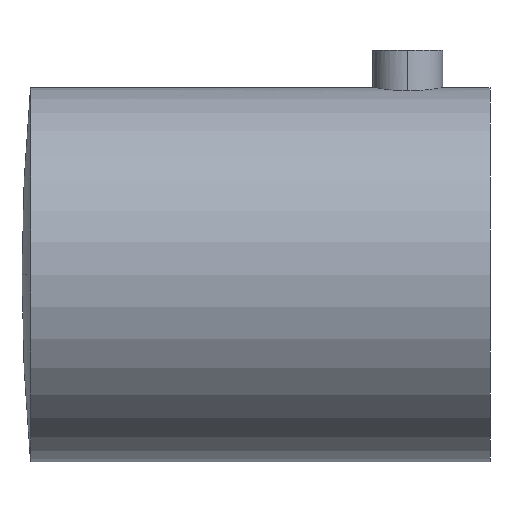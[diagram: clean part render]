
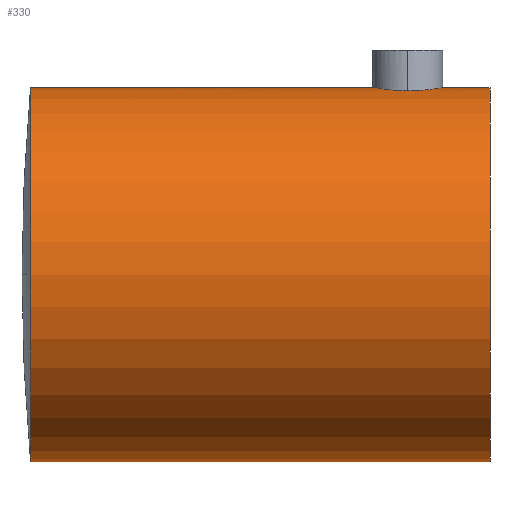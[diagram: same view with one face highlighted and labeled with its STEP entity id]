
A CAD part, left-side view. The second image highlights one B-rep face of the part: STEP entity #330.
In plain terms, the highlighted cylindrical face has radius 12.7 mm (diameter 25.4 mm), a partial arc.
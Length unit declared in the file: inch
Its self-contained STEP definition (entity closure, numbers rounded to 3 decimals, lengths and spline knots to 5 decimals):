
#5 = B_SPLINE_CURVE_WITH_KNOTS ( 'NONE', 3,
 ( #571, #588, #603, #568, #605, #607, #606, #608, #593, #566, #587, #573, #580, #584, #583, #574, #600, #592 ),
 .UNSPECIFIED., .F., .F.,
 ( 4, 2, 2, 2, 2, 2, 2, 2, 4 ),
 ( 0.00372, 0.00419, 0.00465, 0.00512, 0.00558, 0.00605, 0.00651, 0.00698, 0.00744 ),
 .UNSPECIFIED. ) ;
#7 = B_SPLINE_CURVE_WITH_KNOTS ( 'NONE', 3,
 ( #255, #256, #257, #266, #265, #267, #263, #258, #264, #260, #262, #259, #261, #233, #240, #238 ),
 .UNSPECIFIED., .F., .F.,
 ( 4, 2, 2, 2, 2, 2, 2, 4 ),
 ( 0.00744, 0.00837, 0.00884, 0.0093, 0.00977, 0.01023, 0.0107, 0.01116 ),
 .UNSPECIFIED. ) ;
#55 = CARTESIAN_POINT ( 'NONE',  ( 0., 0., 0.5 ) ) ;
#66 = DIRECTION ( 'NONE',  ( 0., -1., 0. ) ) ;
#77 = CARTESIAN_POINT ( 'NONE',  ( 0., 1.22723, 0. ) ) ;
#78 = DIRECTION ( 'NONE',  ( 0., -1., 0. ) ) ;
#89 = CARTESIAN_POINT ( 'NONE',  ( 0., 0., 0. ) ) ;
#90 = DIRECTION ( 'NONE',  ( 0., -1., 0. ) ) ;
#93 = DIRECTION ( 'NONE',  ( 0., 0., -1. ) ) ;
#102 = DIRECTION ( 'NONE',  ( 0., 0., -1. ) ) ;
#104 = ORIENTED_EDGE ( 'NONE', *, *, #406, .T. ) ;
#107 = ORIENTED_EDGE ( 'NONE', *, *, #415, .T. ) ;
#111 = ORIENTED_EDGE ( 'NONE', *, *, #418, .F. ) ;
#125 = EDGE_LOOP ( 'NONE', ( #111, #428, #107, #104, #429, #440, #432, #430 ) ) ;
#136 = CARTESIAN_POINT ( 'NONE',  ( -0.0935, 0.22, 0.49118 ) ) ;
#139 = CARTESIAN_POINT ( 'NONE',  ( -0.5, 1.22723, 0. ) ) ;
#140 = CARTESIAN_POINT ( 'NONE',  ( 0., 1.22723, 0.5 ) ) ;
#142 = CARTESIAN_POINT ( 'NONE',  ( 0., 1.22723, -0.5 ) ) ;
#166 = CARTESIAN_POINT ( 'NONE',  ( 0., 0., 0.5 ) ) ;
#186 = CARTESIAN_POINT ( 'NONE',  ( 0., 0., -0.5 ) ) ;
#200 = VERTEX_POINT ( 'NONE', #223 ) ;
#202 = VERTEX_POINT ( 'NONE', #225 ) ;
#204 = VERTEX_POINT ( 'NONE', #139 ) ;
#205 = VERTEX_POINT ( 'NONE', #142 ) ;
#208 = VERTEX_POINT ( 'NONE', #136 ) ;
#210 = VERTEX_POINT ( 'NONE', #140 ) ;
#214 = VERTEX_POINT ( 'NONE', #186 ) ;
#215 = VERTEX_POINT ( 'NONE', #166 ) ;
#223 = CARTESIAN_POINT ( 'NONE',  ( 0., 0.3135, 0.5 ) ) ;
#225 = CARTESIAN_POINT ( 'NONE',  ( 0., 0.1265, 0.5 ) ) ;
#233 = CARTESIAN_POINT ( 'NONE',  ( -0.0123, 0.31289, 0.49988 ) ) ;
#238 = CARTESIAN_POINT ( 'NONE',  ( 0., 0.3135, 0.5 ) ) ;
#240 = CARTESIAN_POINT ( 'NONE',  ( -0.00618, 0.3135, 0.5 ) ) ;
#250 = CARTESIAN_POINT ( 'NONE',  ( 0., 0., 0. ) ) ;
#251 = DIRECTION ( 'NONE',  ( 0., -1., 0. ) ) ;
#254 = DIRECTION ( 'NONE',  ( 0., 0., -1. ) ) ;
#255 = CARTESIAN_POINT ( 'NONE',  ( -0.0935, 0.22, 0.49118 ) ) ;
#256 = CARTESIAN_POINT ( 'NONE',  ( -0.0935, 0.23222, 0.49118 ) ) ;
#257 = CARTESIAN_POINT ( 'NONE',  ( -0.09104, 0.24455, 0.49166 ) ) ;
#258 = CARTESIAN_POINT ( 'NONE',  ( -0.06183, 0.2904, 0.49618 ) ) ;
#259 = CARTESIAN_POINT ( 'NONE',  ( -0.03019, 0.30871, 0.49912 ) ) ;
#260 = CARTESIAN_POINT ( 'NONE',  ( -0.04689, 0.30112, 0.49782 ) ) ;
#261 = CARTESIAN_POINT ( 'NONE',  ( -0.02426, 0.3105, 0.49945 ) ) ;
#262 = CARTESIAN_POINT ( 'NONE',  ( -0.04153, 0.304, 0.4983 ) ) ;
#263 = CARTESIAN_POINT ( 'NONE',  ( -0.07045, 0.28178, 0.49503 ) ) ;
#264 = CARTESIAN_POINT ( 'NONE',  ( -0.05703, 0.29435, 0.49676 ) ) ;
#265 = CARTESIAN_POINT ( 'NONE',  ( -0.08112, 0.2669, 0.49339 ) ) ;
#266 = CARTESIAN_POINT ( 'NONE',  ( -0.08404, 0.26144, 0.49289 ) ) ;
#267 = CARTESIAN_POINT ( 'NONE',  ( -0.07431, 0.27708, 0.49446 ) ) ;
#330 = ADVANCED_FACE ( 'NONE', ( #532 ), #538, .T. ) ;
#345 = EDGE_CURVE ( 'NONE', #215, #214, #505, .T. ) ;
#346 = EDGE_CURVE ( 'NONE', #208, #200, #7, .T. ) ;
#354 = EDGE_CURVE ( 'NONE', #202, #215, #533, .T. ) ;
#360 = EDGE_CURVE ( 'NONE', #210, #204, #526, .T. ) ;
#369 = AXIS2_PLACEMENT_3D ( 'NONE', #77, #78, #102 ) ;
#376 = AXIS2_PLACEMENT_3D ( 'NONE', #572, #575, #589 ) ;
#387 = AXIS2_PLACEMENT_3D ( 'NONE', #250, #251, #254 ) ;
#397 = AXIS2_PLACEMENT_3D ( 'NONE', #89, #90, #93 ) ;
#406 = EDGE_CURVE ( 'NONE', #205, #214, #564, .T. ) ;
#414 = EDGE_CURVE ( 'NONE', #202, #208, #5, .T. ) ;
#415 = EDGE_CURVE ( 'NONE', #204, #205, #547, .T. ) ;
#418 = EDGE_CURVE ( 'NONE', #210, #200, #560, .T. ) ;
#428 = ORIENTED_EDGE ( 'NONE', *, *, #360, .T. ) ;
#429 = ORIENTED_EDGE ( 'NONE', *, *, #345, .F. ) ;
#430 = ORIENTED_EDGE ( 'NONE', *, *, #346, .T. ) ;
#432 = ORIENTED_EDGE ( 'NONE', *, *, #414, .T. ) ;
#440 = ORIENTED_EDGE ( 'NONE', *, *, #354, .F. ) ;
#505 = CIRCLE ( 'NONE', #387, 0.5 ) ;
#526 = CIRCLE ( 'NONE', #369, 0.5 ) ;
#532 = FACE_OUTER_BOUND ( 'NONE', #125, .T. ) ;
#533 = LINE ( 'NONE', #55, #537 ) ;
#537 = VECTOR ( 'NONE', #66, 39.37008 ) ;
#538 = CYLINDRICAL_SURFACE ( 'NONE', #397, 0.5 ) ;
#547 = CIRCLE ( 'NONE', #376, 0.5 ) ;
#548 = VECTOR ( 'NONE', #601, 39.37008 ) ;
#557 = VECTOR ( 'NONE', #569, 39.37008 ) ;
#560 = LINE ( 'NONE', #595, #548 ) ;
#564 = LINE ( 'NONE', #586, #557 ) ;
#566 = CARTESIAN_POINT ( 'NONE',  ( -0.07048, 0.15825, 0.49503 ) ) ;
#568 = CARTESIAN_POINT ( 'NONE',  ( -0.02432, 0.12951, 0.49944 ) ) ;
#569 = DIRECTION ( 'NONE',  ( 0., -1., 0. ) ) ;
#571 = CARTESIAN_POINT ( 'NONE',  ( 0., 0.1265, 0.5 ) ) ;
#572 = CARTESIAN_POINT ( 'NONE',  ( 0., 1.22723, 0. ) ) ;
#573 = CARTESIAN_POINT ( 'NONE',  ( -0.0811, 0.17307, 0.49339 ) ) ;
#574 = CARTESIAN_POINT ( 'NONE',  ( -0.09289, 0.20769, 0.4913 ) ) ;
#575 = DIRECTION ( 'NONE',  ( 0., -1., 0. ) ) ;
#580 = CARTESIAN_POINT ( 'NONE',  ( -0.08403, 0.17855, 0.49289 ) ) ;
#583 = CARTESIAN_POINT ( 'NONE',  ( -0.09049, 0.19568, 0.49175 ) ) ;
#584 = CARTESIAN_POINT ( 'NONE',  ( -0.08872, 0.18985, 0.49207 ) ) ;
#586 = CARTESIAN_POINT ( 'NONE',  ( 0., 0., -0.5 ) ) ;
#587 = CARTESIAN_POINT ( 'NONE',  ( -0.07433, 0.16296, 0.49446 ) ) ;
#588 = CARTESIAN_POINT ( 'NONE',  ( -0.00611, 0.1265, 0.5 ) ) ;
#589 = DIRECTION ( 'NONE',  ( 0., 0., -1. ) ) ;
#592 = CARTESIAN_POINT ( 'NONE',  ( -0.0935, 0.22, 0.49118 ) ) ;
#593 = CARTESIAN_POINT ( 'NONE',  ( -0.06179, 0.14955, 0.49619 ) ) ;
#595 = CARTESIAN_POINT ( 'NONE',  ( 0., 0., 0.5 ) ) ;
#600 = CARTESIAN_POINT ( 'NONE',  ( -0.0935, 0.21389, 0.49118 ) ) ;
#601 = DIRECTION ( 'NONE',  ( 0., -1., 0. ) ) ;
#603 = CARTESIAN_POINT ( 'NONE',  ( -0.01232, 0.12711, 0.49988 ) ) ;
#605 = CARTESIAN_POINT ( 'NONE',  ( -0.03015, 0.13128, 0.49912 ) ) ;
#606 = CARTESIAN_POINT ( 'NONE',  ( -0.04694, 0.13891, 0.49782 ) ) ;
#607 = CARTESIAN_POINT ( 'NONE',  ( -0.04149, 0.13598, 0.49831 ) ) ;
#608 = CARTESIAN_POINT ( 'NONE',  ( -0.05705, 0.14567, 0.49676 ) ) ;
